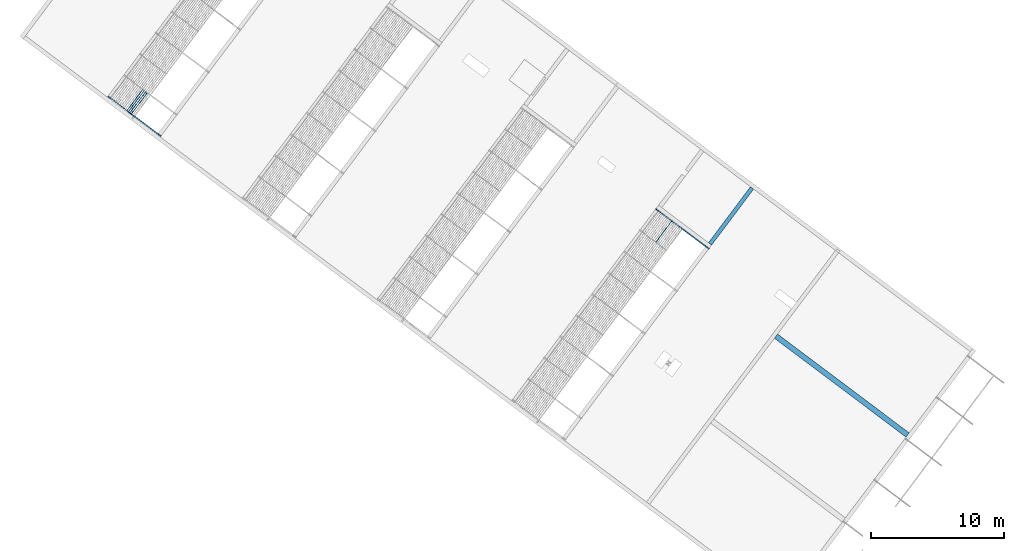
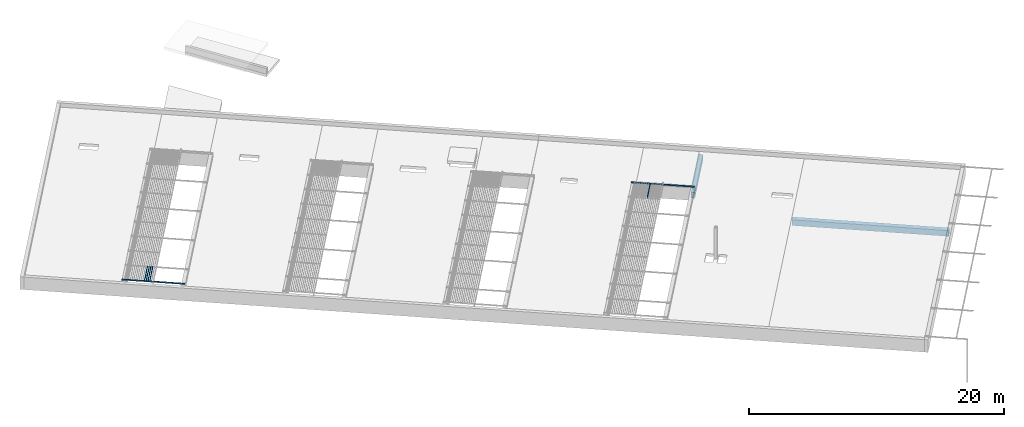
# One storey, part 37 of 95: 9 beams.
"""IFC2X3 building model written with IfcOpenShell, lengths in metres."""

from ifc_helpers import new_model, entity, si_unit, converted_unit, derived_unit, direction, frame, frame_2d, origin, place, context, subcontext, project, spatial, polyline, circle_curve, parameter, trimmed, segment, composite_curve, rectangle, outline, extrude, material, type_object, element, save


model = new_model("IFC2X3")

# Units and contexts
model_context = context("Model", 3, precision=1e-05, world=origin(), true_north=direction((6.123031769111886e-17, 1.0)))
body_context = subcontext(model_context, "Body", "Model", "MODEL_VIEW")
ifc_project = project(units=[si_unit("LENGTHUNIT", "METRE"), si_unit("AREAUNIT", "SQUARE_METRE"), si_unit("VOLUMEUNIT", "CUBIC_METRE"), converted_unit("PLANEANGLEUNIT", "DEGREE", entity("IfcRatioMeasure", 0.017453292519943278), si_unit("PLANEANGLEUNIT", "RADIAN"), dimensions=[0, 0, 0, 0, 0, 0, 0]), si_unit("MASSUNIT", "GRAM", prefix="KILO"), derived_unit("MASSDENSITYUNIT", [(si_unit("MASSUNIT", "GRAM", prefix="KILO"), 1), (si_unit("LENGTHUNIT", "METRE"), -3)]), derived_unit("IONCONCENTRATIONUNIT", [(si_unit("MASSUNIT", "GRAM", prefix="KILO"), 1), (si_unit("LENGTHUNIT", "METRE"), -3)]), derived_unit("MOMENTOFINERTIAUNIT", [(si_unit("LENGTHUNIT", "METRE"), 4)]), si_unit("TIMEUNIT", "SECOND"), si_unit("FREQUENCYUNIT", "HERTZ"), si_unit("THERMODYNAMICTEMPERATUREUNIT", "DEGREE_CELSIUS"), derived_unit("THERMALTRANSMITTANCEUNIT", [(si_unit("MASSUNIT", "GRAM", prefix="KILO"), 1), (si_unit("THERMODYNAMICTEMPERATUREUNIT", "KELVIN"), -1), (si_unit("TIMEUNIT", "SECOND"), -3)]), derived_unit("THERMALCONDUCTANCEUNIT", [(si_unit("MASSUNIT", "GRAM", prefix="KILO"), 1), (si_unit("THERMODYNAMICTEMPERATUREUNIT", "KELVIN"), -1), (si_unit("TIMEUNIT", "SECOND"), -3), (si_unit("LENGTHUNIT", "METRE"), 1)]), derived_unit("VOLUMETRICFLOWRATEUNIT", [(si_unit("LENGTHUNIT", "METRE"), 3), (si_unit("TIMEUNIT", "SECOND"), -1)]), derived_unit("MASSFLOWRATEUNIT", [(si_unit("MASSUNIT", "GRAM", prefix="KILO"), 1), (si_unit("TIMEUNIT", "SECOND"), -1)]), derived_unit("ROTATIONALFREQUENCYUNIT", [(si_unit("TIMEUNIT", "SECOND"), -1)]), si_unit("ELECTRICCURRENTUNIT", "AMPERE"), si_unit("ELECTRICVOLTAGEUNIT", "VOLT"), si_unit("POWERUNIT", "WATT"), si_unit("FORCEUNIT", "NEWTON", prefix="KILO"), si_unit("ILLUMINANCEUNIT", "LUX"), si_unit("LUMINOUSFLUXUNIT", "LUMEN"), si_unit("LUMINOUSINTENSITYUNIT", "CANDELA"), derived_unit("USERDEFINED", [(si_unit("MASSUNIT", "GRAM", prefix="KILO"), -1), (si_unit("LENGTHUNIT", "METRE"), -2), (si_unit("TIMEUNIT", "SECOND"), 3), (si_unit("LUMINOUSFLUXUNIT", "LUMEN"), 1)]), derived_unit("USERDEFINED", [(si_unit("MASSUNIT", "GRAM", prefix="KILO"), 1), (si_unit("TIMEUNIT", "SECOND"), -3), (si_unit("LENGTHUNIT", "METRE"), 3), (si_unit("ELECTRICCURRENTUNIT", "AMPERE"), -2)]), derived_unit("SOUNDPOWERUNIT", [(si_unit("MASSUNIT", "GRAM", prefix="KILO"), 1), (si_unit("TIMEUNIT", "SECOND"), -3), (si_unit("LENGTHUNIT", "METRE"), 2)]), derived_unit("SOUNDPRESSUREUNIT", [(si_unit("MASSUNIT", "GRAM", prefix="KILO"), 1), (si_unit("LENGTHUNIT", "METRE"), -1), (si_unit("TIMEUNIT", "SECOND"), -2)]), derived_unit("LINEARVELOCITYUNIT", [(si_unit("LENGTHUNIT", "METRE"), 1), (si_unit("TIMEUNIT", "SECOND"), -1)]), si_unit("PRESSUREUNIT", "PASCAL"), derived_unit("USERDEFINED", [(si_unit("MASSUNIT", "GRAM", prefix="KILO"), 1), (si_unit("LENGTHUNIT", "METRE"), -2), (si_unit("TIMEUNIT", "SECOND"), -2)]), derived_unit("LINEARFORCEUNIT", [(si_unit("MASSUNIT", "GRAM", prefix="KILO"), 1), (si_unit("TIMEUNIT", "SECOND"), -2)]), derived_unit("PLANARFORCEUNIT", [(si_unit("MASSUNIT", "GRAM", prefix="KILO"), 1), (si_unit("LENGTHUNIT", "METRE"), -1), (si_unit("TIMEUNIT", "SECOND"), -2)]), derived_unit("SPECIFICHEATCAPACITYUNIT", [(si_unit("THERMODYNAMICTEMPERATUREUNIT", "KELVIN"), -1), (si_unit("LENGTHUNIT", "METRE"), 2), (si_unit("TIMEUNIT", "SECOND"), -2)]), derived_unit("HEATINGVALUEUNIT", [(si_unit("LENGTHUNIT", "METRE"), 2), (si_unit("TIMEUNIT", "SECOND"), -2)]), derived_unit("VAPORPERMEABILITYUNIT", [(si_unit("LENGTHUNIT", "METRE"), -1), (si_unit("TIMEUNIT", "SECOND"), 1)]), derived_unit("DYNAMICVISCOSITYUNIT", [(si_unit("MASSUNIT", "GRAM", prefix="KILO"), 1), (si_unit("TIMEUNIT", "SECOND"), -1), (si_unit("LENGTHUNIT", "METRE"), -1)]), derived_unit("THERMALEXPANSIONCOEFFICIENTUNIT", [(si_unit("THERMODYNAMICTEMPERATUREUNIT", "KELVIN"), -1)]), derived_unit("MODULUSOFELASTICITYUNIT", [(si_unit("MASSUNIT", "GRAM", prefix="KILO"), 1), (si_unit("LENGTHUNIT", "METRE"), -1), (si_unit("TIMEUNIT", "SECOND"), -2)]), derived_unit("ISOTHERMALMOISTURECAPACITYUNIT", [(si_unit("LENGTHUNIT", "METRE"), 3), (si_unit("MASSUNIT", "GRAM", prefix="KILO"), -1)]), derived_unit("MOISTUREDIFFUSIVITYUNIT", [(si_unit("TIMEUNIT", "SECOND"), -1), (si_unit("LENGTHUNIT", "METRE"), 2)])], contexts=[model_context])

# Site, building, storey
site_placement = place(None, origin())
site = spatial("IfcSite", under=ifc_project, at=site_placement, Name="Default", CompositionType="ELEMENT")
building_placement = place(site_placement, frame((0.0, 0.0, 235.0), z_axis=(0.0, 0.0, 1.0), x_axis=(-0.7996477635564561, 0.6004693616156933, 0.0)))
building = spatial("IfcBuilding", under=site, at=building_placement, CompositionType="ELEMENT")
storey_placement = place(building_placement, frame((0.0, 0.0, 3.400000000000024)))
storey = spatial("IfcBuildingStorey", under=building, at=storey_placement, Name="PC- Coberta STR", CompositionType="ELEMENT", Elevation=3.400000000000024)

# Beams
ifc_material_1 = material(Name="_Formigó- T1- STR")
beam_type_1 = type_object("IfcBeamType", Name="STR- V- Formigó- Rectangular- T1:30x80 cm", PredefinedType="NOTDEFINED")
beam_1_placement = place(storey_placement, frame((23.79514768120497, -36.752586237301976, 0.0), z_axis=(0.0, 0.0, 1.0), x_axis=(0.0, -1.0, 0.0)))
element("IfcBeam", 1, at=beam_1_placement, inside=storey, type_object=beam_type_1, material=ifc_material_1, Name="STR- V- Formigó- Rectangular- T1:30x80 cm", ObjectType="STR- V- Formigó- Rectangular- T1:30x80 cm", context=body_context, shape_type="SweptSolid", body=[
    extrude(rectangle(XDim=0.5500000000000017, YDim=0.30000000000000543, at=frame_2d((0.0, -4.3298697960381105e-15), x_axis=(1.0, 0.0))), frame((0.012605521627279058, 0.0, -0.5250000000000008), z_axis=(1.0, 0.0, 0.0), x_axis=(0.0, 0.0, -1.0)), (0.0, 0.0, 1.0), 5.275000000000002),
])
beam_type_2 = type_object("IfcBeamType", Name="STR- V- Formigó- Rectangular- T1:40x80 cm", PredefinedType="NOTDEFINED")
beam_2_placement = place(storey_placement, frame((3.095147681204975, -34.19019175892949, 0.0)))
element("IfcBeam", 2, at=beam_2_placement, inside=storey, type_object=beam_type_2, material=ifc_material_1, Name="STR- V- Formigó- Rectangular- T1:40x80 cm", ObjectType="STR- V- Formigó- Rectangular- T1:40x80 cm", context=body_context, shape_type="SweptSolid", body=[
    extrude(rectangle(XDim=0.5500000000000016, YDim=0.4000000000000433, at=frame_2d((0.0, 1.0824674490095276e-14), x_axis=(1.0, 0.0))), frame((0.14999999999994, 0.0, -0.5250000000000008), z_axis=(1.0, 0.0, 0.0), x_axis=(0.0, 0.0, -1.0)), (0.0, 0.0, 1.0), 12.400000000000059),
])
ifc_material_2 = material(Name="_Acer- STR")
beam_type_3 = type_object("IfcBeamType", Name="STR- V- Acer- RHS- Rectangular- T1:120x60RHS", PredefinedType="NOTDEFINED")
beam_3_placement = place(storey_placement, frame((23.645147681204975, -36.44678703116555, 0.49840472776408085), z_axis=(0.0, 0.0, 1.0), x_axis=(-1.0, 0.0, 0.0)))
element("IfcBeam", 3, at=beam_3_placement, inside=storey, type_object=beam_type_3, material=ifc_material_2, Name="STR- V- Acer- RHS- Rectangular- T1:120x60RHS", ObjectType="STR- V- Acer- RHS- Rectangular- T1:120x60RHS", context=body_context, shape_type="SweptSolid", body=[
    extrude(outline(composite_curve([segment(trimmed(circle_curve(frame_2d((-0.021999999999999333, -0.05200000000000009), x_axis=(1.0, 0.0)), 0.008), [parameter(180.0000000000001)], [parameter(269.99999999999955)], True, "PARAMETER"), True, "CONTINUOUS"), segment(polyline([(-0.022000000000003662, -0.05999999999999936), (0.021999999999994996, -0.05999999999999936)]), True, "CONTINUOUS"), segment(trimmed(circle_curve(frame_2d((0.021999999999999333, -0.05200000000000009), x_axis=(1.0, 0.0)), 0.008), [parameter(269.99999999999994)], [parameter(5.088887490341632e-14)], True, "PARAMETER"), True, "CONTINUOUS"), segment(polyline([(0.029999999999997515, -0.05199999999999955), (0.029999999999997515, 0.05200000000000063)]), True, "CONTINUOUS"), segment(trimmed(circle_curve(frame_2d((0.021999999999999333, 0.05200000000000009), x_axis=(1.0, 0.0)), 0.008), [parameter(359.99999999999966)], [parameter(89.99999999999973)], True, "PARAMETER"), True, "CONTINUOUS"), segment(polyline([(0.021999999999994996, 0.060000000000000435), (-0.022000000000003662, 0.060000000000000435)]), True, "CONTINUOUS"), segment(trimmed(circle_curve(frame_2d((-0.021999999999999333, 0.05200000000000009), x_axis=(1.0, 0.0)), 0.008), [parameter(90.00000000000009)], [parameter(180.00000000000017)], True, "PARAMETER"), True, "CONTINUOUS"), segment(polyline([(-0.030000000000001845, 0.05200000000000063), (-0.030000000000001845, -0.05199999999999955)]), True, "CONTINUOUS")], self_intersect=False), holes=[composite_curve([segment(polyline([(0.021999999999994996, -0.05600000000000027), (-0.022000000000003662, -0.05600000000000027)]), True, "CONTINUOUS"), segment(trimmed(circle_curve(frame_2d((-0.021999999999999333, -0.05200000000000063), x_axis=(1.0, 0.0)), 0.004), [parameter(179.99999999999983)], [parameter(269.9999999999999)], True, "PARAMETER"), False, "CONTINUOUS"), segment(polyline([(-0.026000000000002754, -0.05200000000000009), (-0.026000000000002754, 0.05199999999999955)]), True, "CONTINUOUS"), segment(trimmed(circle_curve(frame_2d((-0.021999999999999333, 0.051999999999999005), x_axis=(1.0, 0.0)), 0.004), [parameter(90.00000000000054)], [parameter(180.00000000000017)], True, "PARAMETER"), False, "CONTINUOUS"), segment(polyline([(-0.022000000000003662, 0.05599999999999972), (0.021999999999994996, 0.05599999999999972)]), True, "CONTINUOUS"), segment(trimmed(circle_curve(frame_2d((0.021999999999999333, 0.051999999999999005), x_axis=(1.0, 0.0)), 0.004), [parameter(0.0)], [parameter(90.00000000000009)], True, "PARAMETER"), False, "CONTINUOUS"), segment(polyline([(0.02599999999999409, 0.05199999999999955), (0.02599999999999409, -0.05200000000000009)]), True, "CONTINUOUS"), segment(trimmed(circle_curve(frame_2d((0.021999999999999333, -0.05200000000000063), x_axis=(1.0, 0.0)), 0.004), [parameter(270.00000000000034)], [parameter(3.5622212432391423e-13)], True, "PARAMETER"), False, "CONTINUOUS")], self_intersect=False)]), frame((-5.0, -0.0315952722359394, 0.061595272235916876), z_axis=(1.0, 0.0, 0.0), x_axis=(0.0, -1.0, 0.0)), (0.0, 0.0, 1.0), 5.000000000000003),
])
beam_4_placement = place(storey_placement, frame((61.74514768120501, -18.446787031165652, 0.49840472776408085), z_axis=(0.0, 0.0, 1.0), x_axis=(-1.0, 0.0, 0.0)))
element("IfcBeam", 4, at=beam_4_placement, inside=storey, type_object=beam_type_3, material=ifc_material_2, Name="STR- V- Acer- RHS- Rectangular- T1:120x60RHS", ObjectType="STR- V- Acer- RHS- Rectangular- T1:120x60RHS", context=body_context, shape_type="SweptSolid", body=[
    extrude(outline(composite_curve([segment(trimmed(circle_curve(frame_2d((-0.022000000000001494, -0.05200000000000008), x_axis=(1.0, 0.0)), 0.008), [parameter(180.0000000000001)], [parameter(269.99999999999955)], True, "PARAMETER"), True, "CONTINUOUS"), segment(polyline([(-0.022000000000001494, -0.05999999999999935), (0.021999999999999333, -0.05999999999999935)]), True, "CONTINUOUS"), segment(trimmed(circle_curve(frame_2d((0.021999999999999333, -0.05200000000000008), x_axis=(1.0, 0.0)), 0.008), [parameter(269.99999999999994)], [parameter(5.088887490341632e-14)], True, "PARAMETER"), True, "CONTINUOUS"), segment(polyline([(0.029999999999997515, -0.05199999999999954), (0.029999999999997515, 0.052000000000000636)]), True, "CONTINUOUS"), segment(trimmed(circle_curve(frame_2d((0.021999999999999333, 0.052000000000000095), x_axis=(1.0, 0.0)), 0.008), [parameter(359.99999999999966)], [parameter(89.99999999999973)], True, "PARAMETER"), True, "CONTINUOUS"), segment(polyline([(0.021999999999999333, 0.06000000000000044), (-0.022000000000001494, 0.06000000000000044)]), True, "CONTINUOUS"), segment(trimmed(circle_curve(frame_2d((-0.022000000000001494, 0.052000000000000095), x_axis=(1.0, 0.0)), 0.008), [parameter(90.00000000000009)], [parameter(180.00000000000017)], True, "PARAMETER"), True, "CONTINUOUS"), segment(polyline([(-0.03000000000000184, 0.052000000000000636), (-0.03000000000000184, -0.05199999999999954)]), True, "CONTINUOUS")], self_intersect=False), holes=[composite_curve([segment(polyline([(0.021999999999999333, -0.056000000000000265), (-0.022000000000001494, -0.056000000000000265)]), True, "CONTINUOUS"), segment(trimmed(circle_curve(frame_2d((-0.022000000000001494, -0.05200000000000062), x_axis=(1.0, 0.0)), 0.004), [parameter(179.99999999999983)], [parameter(269.9999999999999)], True, "PARAMETER"), False, "CONTINUOUS"), segment(polyline([(-0.026000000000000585, -0.05200000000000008), (-0.026000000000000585, 0.051999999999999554)]), True, "CONTINUOUS"), segment(trimmed(circle_curve(frame_2d((-0.022000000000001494, 0.05199999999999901), x_axis=(1.0, 0.0)), 0.004), [parameter(90.00000000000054)], [parameter(180.00000000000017)], True, "PARAMETER"), False, "CONTINUOUS"), segment(polyline([(-0.022000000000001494, 0.055999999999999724), (0.021999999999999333, 0.055999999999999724)]), True, "CONTINUOUS"), segment(trimmed(circle_curve(frame_2d((0.021999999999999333, 0.05199999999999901), x_axis=(1.0, 0.0)), 0.004), [parameter(0.0)], [parameter(90.00000000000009)], True, "PARAMETER"), False, "CONTINUOUS"), segment(polyline([(0.02599999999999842, 0.051999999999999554), (0.02599999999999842, -0.05200000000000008)]), True, "CONTINUOUS"), segment(trimmed(circle_curve(frame_2d((0.021999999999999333, -0.05200000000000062), x_axis=(1.0, 0.0)), 0.004), [parameter(270.00000000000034)], [parameter(3.5622212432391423e-13)], True, "PARAMETER"), False, "CONTINUOUS")], self_intersect=False)]), frame((-5.0, -0.031595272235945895, 0.061595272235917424), z_axis=(1.0, 0.0, 0.0), x_axis=(0.0, -1.0, 0.0)), (0.0, 0.0, 1.0), 5.000000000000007),
])
beam_type_4 = type_object("IfcBeamType", Name="STR- V- Acer- RHS- Rectangular- T1:120x40RHS -", PredefinedType="NOTDEFINED")
beam_5_placement = place(storey_placement, frame((27.1135524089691, -36.3851917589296, 0.49840472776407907), z_axis=(0.0, 0.0, 1.0), x_axis=(0.0, -1.0, 0.0)))
element("IfcBeam", 5, at=beam_5_placement, inside=storey, type_object=beam_type_4, material=ifc_material_2, Name="STR- V- Acer- RHS- Rectangular- T1:120x40RHS -", ObjectType="STR- V- Acer- RHS- Rectangular- T1:120x40RHS -", context=body_context, shape_type="SweptSolid", body=[
    extrude(outline(composite_curve([segment(trimmed(circle_curve(frame_2d((-0.013999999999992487, -0.05400000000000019), x_axis=(1.0, 0.0)), 0.006), [parameter(180.0000000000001)], [parameter(269.99999999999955)], True, "PARAMETER"), True, "CONTINUOUS"), segment(polyline([(-0.013999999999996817, -0.06000000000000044), (0.01400000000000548, -0.06000000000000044)]), True, "CONTINUOUS"), segment(trimmed(circle_curve(frame_2d((0.01400000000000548, -0.05400000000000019), x_axis=(1.0, 0.0)), 0.006), [parameter(269.99999999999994)], [parameter(1.0177774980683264e-13)], True, "PARAMETER"), True, "CONTINUOUS"), segment(polyline([(0.020000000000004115, -0.05400000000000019), (0.020000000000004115, 0.05399999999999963)]), True, "CONTINUOUS"), segment(trimmed(circle_curve(frame_2d((0.01400000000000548, 0.05399999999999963), x_axis=(1.0, 0.0)), 0.006), [parameter(359.9999999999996)], [parameter(89.99999999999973)], True, "PARAMETER"), True, "CONTINUOUS"), segment(polyline([(0.01400000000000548, 0.05999999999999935), (-0.013999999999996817, 0.05999999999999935)]), True, "CONTINUOUS"), segment(trimmed(circle_curve(frame_2d((-0.013999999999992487, 0.05399999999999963), x_axis=(1.0, 0.0)), 0.006), [parameter(90.00000000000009)], [parameter(180.00000000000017)], True, "PARAMETER"), True, "CONTINUOUS"), segment(polyline([(-0.019999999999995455, 0.05399999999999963), (-0.019999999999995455, -0.05400000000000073)]), True, "CONTINUOUS")], self_intersect=False), holes=[composite_curve([segment(polyline([(0.01400000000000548, -0.05700000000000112), (-0.013999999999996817, -0.05700000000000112)]), True, "CONTINUOUS"), segment(trimmed(circle_curve(frame_2d((-0.013999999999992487, -0.05400000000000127), x_axis=(1.0, 0.0)), 0.003), [parameter(179.99999999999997)], [parameter(269.9999999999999)], True, "PARAMETER"), False, "CONTINUOUS"), segment(polyline([(-0.01699999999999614, -0.05400000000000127), (-0.01699999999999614, 0.05399999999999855)]), True, "CONTINUOUS"), segment(trimmed(circle_curve(frame_2d((-0.013999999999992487, 0.05399999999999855), x_axis=(1.0, 0.0)), 0.003), [parameter(90.00000000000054)], [parameter(180.0000000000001)], True, "PARAMETER"), False, "CONTINUOUS"), segment(polyline([(-0.013999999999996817, 0.05699999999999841), (0.01400000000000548, 0.05699999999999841)]), True, "CONTINUOUS"), segment(trimmed(circle_curve(frame_2d((0.01400000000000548, 0.05399999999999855), x_axis=(1.0, 0.0)), 0.003), [parameter(0.0)], [parameter(90.00000000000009)], True, "PARAMETER"), False, "CONTINUOUS"), segment(polyline([(0.017000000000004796, 0.05399999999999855), (0.017000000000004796, -0.05400000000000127)]), True, "CONTINUOUS"), segment(trimmed(circle_curve(frame_2d((0.01400000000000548, -0.05400000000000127), x_axis=(1.0, 0.0)), 0.003), [parameter(270.00000000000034)], [parameter(3.053332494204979e-13)], True, "PARAMETER"), False, "CONTINUOUS")], self_intersect=False)]), frame((-1.9399999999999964, 0.021595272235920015, 0.06159527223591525), z_axis=(1.0, 0.0, 0.0), x_axis=(0.0, -1.0, 0.0)), (0.0, 0.0, 1.0), 1.9400000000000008),
])
beam_6_placement = place(storey_placement, frame((64.93355240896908, -20.385189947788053, 0.4984047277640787), z_axis=(0.0, 0.0, 1.0), x_axis=(0.0, -1.0, 0.0)))
element("IfcBeam", 6, at=beam_6_placement, inside=storey, type_object=beam_type_4, material=ifc_material_2, Name="STR- V- Acer- RHS- Rectangular- T1:120x40RHS -", ObjectType="STR- V- Acer- RHS- Rectangular- T1:120x40RHS -", context=body_context, shape_type="SweptSolid", body=[
    extrude(outline(composite_curve([segment(trimmed(circle_curve(frame_2d((-0.013999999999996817, -0.053999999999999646), x_axis=(1.0, 0.0)), 0.006), [parameter(180.0000000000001)], [parameter(269.99999999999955)], True, "PARAMETER"), True, "CONTINUOUS"), segment(polyline([(-0.013999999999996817, -0.0599999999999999), (0.013999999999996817, -0.0599999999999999)]), True, "CONTINUOUS"), segment(trimmed(circle_curve(frame_2d((0.01400000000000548, -0.053999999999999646), x_axis=(1.0, 0.0)), 0.006), [parameter(269.99999999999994)], [parameter(1.0177774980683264e-13)], True, "PARAMETER"), True, "CONTINUOUS"), segment(polyline([(0.020000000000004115, -0.053999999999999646), (0.020000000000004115, 0.05400000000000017)]), True, "CONTINUOUS"), segment(trimmed(circle_curve(frame_2d((0.01400000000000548, 0.05400000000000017), x_axis=(1.0, 0.0)), 0.006), [parameter(359.9999999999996)], [parameter(89.99999999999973)], True, "PARAMETER"), True, "CONTINUOUS"), segment(polyline([(0.013999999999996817, 0.059999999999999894), (-0.013999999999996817, 0.059999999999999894)]), True, "CONTINUOUS"), segment(trimmed(circle_curve(frame_2d((-0.013999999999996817, 0.05400000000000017), x_axis=(1.0, 0.0)), 0.006), [parameter(90.00000000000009)], [parameter(180.00000000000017)], True, "PARAMETER"), True, "CONTINUOUS"), segment(polyline([(-0.019999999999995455, 0.05400000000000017), (-0.019999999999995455, -0.05400000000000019)]), True, "CONTINUOUS")], self_intersect=False), holes=[composite_curve([segment(polyline([(0.013999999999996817, -0.05700000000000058), (-0.013999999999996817, -0.05700000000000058)]), True, "CONTINUOUS"), segment(trimmed(circle_curve(frame_2d((-0.013999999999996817, -0.05400000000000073), x_axis=(1.0, 0.0)), 0.003), [parameter(179.99999999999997)], [parameter(269.9999999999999)], True, "PARAMETER"), False, "CONTINUOUS"), segment(polyline([(-0.01699999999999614, -0.05400000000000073), (-0.01699999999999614, 0.05399999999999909)]), True, "CONTINUOUS"), segment(trimmed(circle_curve(frame_2d((-0.013999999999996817, 0.05399999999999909), x_axis=(1.0, 0.0)), 0.003), [parameter(90.00000000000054)], [parameter(180.0000000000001)], True, "PARAMETER"), False, "CONTINUOUS"), segment(polyline([(-0.013999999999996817, 0.056999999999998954), (0.013999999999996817, 0.056999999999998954)]), True, "CONTINUOUS"), segment(trimmed(circle_curve(frame_2d((0.01400000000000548, 0.05399999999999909), x_axis=(1.0, 0.0)), 0.003), [parameter(0.0)], [parameter(90.00000000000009)], True, "PARAMETER"), False, "CONTINUOUS"), segment(polyline([(0.017000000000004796, 0.05399999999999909), (0.017000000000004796, -0.05400000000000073)]), True, "CONTINUOUS"), segment(trimmed(circle_curve(frame_2d((0.01400000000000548, -0.05400000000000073), x_axis=(1.0, 0.0)), 0.003), [parameter(270.00000000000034)], [parameter(3.053332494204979e-13)], True, "PARAMETER"), False, "CONTINUOUS")], self_intersect=False)]), frame((-1.940000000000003, 0.021595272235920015, 0.06159527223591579), z_axis=(1.0, 0.0, 0.0), x_axis=(0.0, -1.0, 0.0)), (0.0, 0.0, 1.0), 1.9400000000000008),
])
beam_7_placement = place(storey_placement, frame((64.79355240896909, -20.385189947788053, 0.4984047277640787), z_axis=(0.0, 0.0, 1.0), x_axis=(0.0, -1.0, 0.0)))
element("IfcBeam", 7, at=beam_7_placement, inside=storey, type_object=beam_type_4, material=ifc_material_2, Name="STR- V- Acer- RHS- Rectangular- T1:120x40RHS -", ObjectType="STR- V- Acer- RHS- Rectangular- T1:120x40RHS -", context=body_context, shape_type="SweptSolid", body=[
    extrude(outline(composite_curve([segment(trimmed(circle_curve(frame_2d((-0.01400000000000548, -0.053999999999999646), x_axis=(1.0, 0.0)), 0.006), [parameter(180.0000000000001)], [parameter(269.99999999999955)], True, "PARAMETER"), True, "CONTINUOUS"), segment(polyline([(-0.01400000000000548, -0.0599999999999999), (0.013999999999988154, -0.0599999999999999)]), True, "CONTINUOUS"), segment(trimmed(circle_curve(frame_2d((0.013999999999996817, -0.053999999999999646), x_axis=(1.0, 0.0)), 0.006), [parameter(269.99999999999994)], [parameter(1.0177774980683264e-13)], True, "PARAMETER"), True, "CONTINUOUS"), segment(polyline([(0.019999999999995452, -0.053999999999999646), (0.019999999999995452, 0.05400000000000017)]), True, "CONTINUOUS"), segment(trimmed(circle_curve(frame_2d((0.013999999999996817, 0.05400000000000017), x_axis=(1.0, 0.0)), 0.006), [parameter(359.9999999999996)], [parameter(89.99999999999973)], True, "PARAMETER"), True, "CONTINUOUS"), segment(polyline([(0.013999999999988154, 0.059999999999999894), (-0.01400000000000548, 0.059999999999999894)]), True, "CONTINUOUS"), segment(trimmed(circle_curve(frame_2d((-0.01400000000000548, 0.05400000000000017), x_axis=(1.0, 0.0)), 0.006), [parameter(90.00000000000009)], [parameter(180.00000000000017)], True, "PARAMETER"), True, "CONTINUOUS"), segment(polyline([(-0.02000000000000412, 0.05400000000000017), (-0.02000000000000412, -0.05400000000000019)]), True, "CONTINUOUS")], self_intersect=False), holes=[composite_curve([segment(polyline([(0.013999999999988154, -0.05700000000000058), (-0.01400000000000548, -0.05700000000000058)]), True, "CONTINUOUS"), segment(trimmed(circle_curve(frame_2d((-0.01400000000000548, -0.05400000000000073), x_axis=(1.0, 0.0)), 0.003), [parameter(179.99999999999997)], [parameter(269.9999999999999)], True, "PARAMETER"), False, "CONTINUOUS"), segment(polyline([(-0.017000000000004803, -0.05400000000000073), (-0.017000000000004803, 0.05399999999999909)]), True, "CONTINUOUS"), segment(trimmed(circle_curve(frame_2d((-0.01400000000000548, 0.05399999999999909), x_axis=(1.0, 0.0)), 0.003), [parameter(90.00000000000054)], [parameter(180.0000000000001)], True, "PARAMETER"), False, "CONTINUOUS"), segment(polyline([(-0.01400000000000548, 0.056999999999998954), (0.013999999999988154, 0.056999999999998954)]), True, "CONTINUOUS"), segment(trimmed(circle_curve(frame_2d((0.013999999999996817, 0.05399999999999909), x_axis=(1.0, 0.0)), 0.003), [parameter(0.0)], [parameter(90.00000000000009)], True, "PARAMETER"), False, "CONTINUOUS"), segment(polyline([(0.016999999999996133, 0.05399999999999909), (0.016999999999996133, -0.05400000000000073)]), True, "CONTINUOUS"), segment(trimmed(circle_curve(frame_2d((0.013999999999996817, -0.05400000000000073), x_axis=(1.0, 0.0)), 0.003), [parameter(270.00000000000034)], [parameter(3.053332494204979e-13)], True, "PARAMETER"), False, "CONTINUOUS")], self_intersect=False)]), frame((-1.940000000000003, 0.02159527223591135, 0.06159527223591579), z_axis=(1.0, 0.0, 0.0), x_axis=(0.0, -1.0, 0.0)), (0.0, 0.0, 1.0), 1.9400000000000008),
])
beam_8_placement = place(storey_placement, frame((64.65355240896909, -20.385189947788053, 0.4984047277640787), z_axis=(0.0, 0.0, 1.0), x_axis=(0.0, -1.0, 0.0)))
element("IfcBeam", 8, at=beam_8_placement, inside=storey, type_object=beam_type_4, material=ifc_material_2, Name="STR- V- Acer- RHS- Rectangular- T1:120x40RHS -", ObjectType="STR- V- Acer- RHS- Rectangular- T1:120x40RHS -", context=body_context, shape_type="SweptSolid", body=[
    extrude(outline(composite_curve([segment(trimmed(circle_curve(frame_2d((-0.01400000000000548, -0.053999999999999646), x_axis=(1.0, 0.0)), 0.006), [parameter(180.0000000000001)], [parameter(269.99999999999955)], True, "PARAMETER"), True, "CONTINUOUS"), segment(polyline([(-0.01400000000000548, -0.0599999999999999), (0.013999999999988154, -0.0599999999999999)]), True, "CONTINUOUS"), segment(trimmed(circle_curve(frame_2d((0.013999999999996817, -0.053999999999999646), x_axis=(1.0, 0.0)), 0.006), [parameter(269.99999999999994)], [parameter(1.0177774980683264e-13)], True, "PARAMETER"), True, "CONTINUOUS"), segment(polyline([(0.019999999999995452, -0.053999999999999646), (0.019999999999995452, 0.05400000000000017)]), True, "CONTINUOUS"), segment(trimmed(circle_curve(frame_2d((0.013999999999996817, 0.05400000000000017), x_axis=(1.0, 0.0)), 0.006), [parameter(359.9999999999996)], [parameter(89.99999999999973)], True, "PARAMETER"), True, "CONTINUOUS"), segment(polyline([(0.013999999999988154, 0.059999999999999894), (-0.01400000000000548, 0.059999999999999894)]), True, "CONTINUOUS"), segment(trimmed(circle_curve(frame_2d((-0.01400000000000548, 0.05400000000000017), x_axis=(1.0, 0.0)), 0.006), [parameter(90.00000000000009)], [parameter(180.00000000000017)], True, "PARAMETER"), True, "CONTINUOUS"), segment(polyline([(-0.02000000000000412, 0.05400000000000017), (-0.02000000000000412, -0.05400000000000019)]), True, "CONTINUOUS")], self_intersect=False), holes=[composite_curve([segment(polyline([(0.013999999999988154, -0.05700000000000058), (-0.01400000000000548, -0.05700000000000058)]), True, "CONTINUOUS"), segment(trimmed(circle_curve(frame_2d((-0.01400000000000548, -0.05400000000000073), x_axis=(1.0, 0.0)), 0.003), [parameter(179.99999999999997)], [parameter(269.9999999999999)], True, "PARAMETER"), False, "CONTINUOUS"), segment(polyline([(-0.017000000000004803, -0.05400000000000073), (-0.017000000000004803, 0.05399999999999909)]), True, "CONTINUOUS"), segment(trimmed(circle_curve(frame_2d((-0.01400000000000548, 0.05399999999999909), x_axis=(1.0, 0.0)), 0.003), [parameter(90.00000000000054)], [parameter(180.0000000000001)], True, "PARAMETER"), False, "CONTINUOUS"), segment(polyline([(-0.01400000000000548, 0.056999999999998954), (0.013999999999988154, 0.056999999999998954)]), True, "CONTINUOUS"), segment(trimmed(circle_curve(frame_2d((0.013999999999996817, 0.05399999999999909), x_axis=(1.0, 0.0)), 0.003), [parameter(0.0)], [parameter(90.00000000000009)], True, "PARAMETER"), False, "CONTINUOUS"), segment(polyline([(0.016999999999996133, 0.05399999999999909), (0.016999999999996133, -0.05400000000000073)]), True, "CONTINUOUS"), segment(trimmed(circle_curve(frame_2d((0.013999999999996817, -0.05400000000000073), x_axis=(1.0, 0.0)), 0.003), [parameter(270.00000000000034)], [parameter(3.053332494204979e-13)], True, "PARAMETER"), False, "CONTINUOUS")], self_intersect=False)]), frame((-1.940000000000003, 0.02159527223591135, 0.06159527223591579), z_axis=(1.0, 0.0, 0.0), x_axis=(0.0, -1.0, 0.0)), (0.0, 0.0, 1.0), 1.9400000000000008),
])
beam_9_placement = place(storey_placement, frame((64.51355240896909, -20.385189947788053, 0.4984047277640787), z_axis=(0.0, 0.0, 1.0), x_axis=(0.0, -1.0, 0.0)))
element("IfcBeam", 9, at=beam_9_placement, inside=storey, type_object=beam_type_4, material=ifc_material_2, Name="STR- V- Acer- RHS- Rectangular- T1:120x40RHS -", ObjectType="STR- V- Acer- RHS- Rectangular- T1:120x40RHS -", context=body_context, shape_type="SweptSolid", body=[
    extrude(outline(composite_curve([segment(trimmed(circle_curve(frame_2d((-0.01400000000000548, -0.053999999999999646), x_axis=(1.0, 0.0)), 0.006), [parameter(180.0000000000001)], [parameter(269.99999999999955)], True, "PARAMETER"), True, "CONTINUOUS"), segment(polyline([(-0.01400000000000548, -0.0599999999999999), (0.013999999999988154, -0.0599999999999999)]), True, "CONTINUOUS"), segment(trimmed(circle_curve(frame_2d((0.013999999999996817, -0.053999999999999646), x_axis=(1.0, 0.0)), 0.006), [parameter(269.99999999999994)], [parameter(1.0177774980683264e-13)], True, "PARAMETER"), True, "CONTINUOUS"), segment(polyline([(0.019999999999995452, -0.053999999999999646), (0.019999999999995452, 0.05400000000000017)]), True, "CONTINUOUS"), segment(trimmed(circle_curve(frame_2d((0.013999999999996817, 0.05400000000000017), x_axis=(1.0, 0.0)), 0.006), [parameter(359.9999999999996)], [parameter(89.99999999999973)], True, "PARAMETER"), True, "CONTINUOUS"), segment(polyline([(0.013999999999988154, 0.059999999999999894), (-0.01400000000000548, 0.059999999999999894)]), True, "CONTINUOUS"), segment(trimmed(circle_curve(frame_2d((-0.01400000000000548, 0.05400000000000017), x_axis=(1.0, 0.0)), 0.006), [parameter(90.00000000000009)], [parameter(180.00000000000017)], True, "PARAMETER"), True, "CONTINUOUS"), segment(polyline([(-0.02000000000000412, 0.05400000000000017), (-0.02000000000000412, -0.05400000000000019)]), True, "CONTINUOUS")], self_intersect=False), holes=[composite_curve([segment(polyline([(0.013999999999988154, -0.05700000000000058), (-0.01400000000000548, -0.05700000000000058)]), True, "CONTINUOUS"), segment(trimmed(circle_curve(frame_2d((-0.01400000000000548, -0.05400000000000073), x_axis=(1.0, 0.0)), 0.003), [parameter(179.99999999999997)], [parameter(269.9999999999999)], True, "PARAMETER"), False, "CONTINUOUS"), segment(polyline([(-0.017000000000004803, -0.05400000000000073), (-0.017000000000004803, 0.05399999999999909)]), True, "CONTINUOUS"), segment(trimmed(circle_curve(frame_2d((-0.01400000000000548, 0.05399999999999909), x_axis=(1.0, 0.0)), 0.003), [parameter(90.00000000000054)], [parameter(180.0000000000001)], True, "PARAMETER"), False, "CONTINUOUS"), segment(polyline([(-0.01400000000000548, 0.056999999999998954), (0.013999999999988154, 0.056999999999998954)]), True, "CONTINUOUS"), segment(trimmed(circle_curve(frame_2d((0.013999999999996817, 0.05399999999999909), x_axis=(1.0, 0.0)), 0.003), [parameter(0.0)], [parameter(90.00000000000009)], True, "PARAMETER"), False, "CONTINUOUS"), segment(polyline([(0.016999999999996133, 0.05399999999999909), (0.016999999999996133, -0.05400000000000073)]), True, "CONTINUOUS"), segment(trimmed(circle_curve(frame_2d((0.013999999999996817, -0.05400000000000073), x_axis=(1.0, 0.0)), 0.003), [parameter(270.00000000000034)], [parameter(3.053332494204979e-13)], True, "PARAMETER"), False, "CONTINUOUS")], self_intersect=False)]), frame((-1.940000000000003, 0.02159527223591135, 0.06159527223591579), z_axis=(1.0, 0.0, 0.0), x_axis=(0.0, -1.0, 0.0)), (0.0, 0.0, 1.0), 1.9400000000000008),
])

save(model, "model.ifc")
